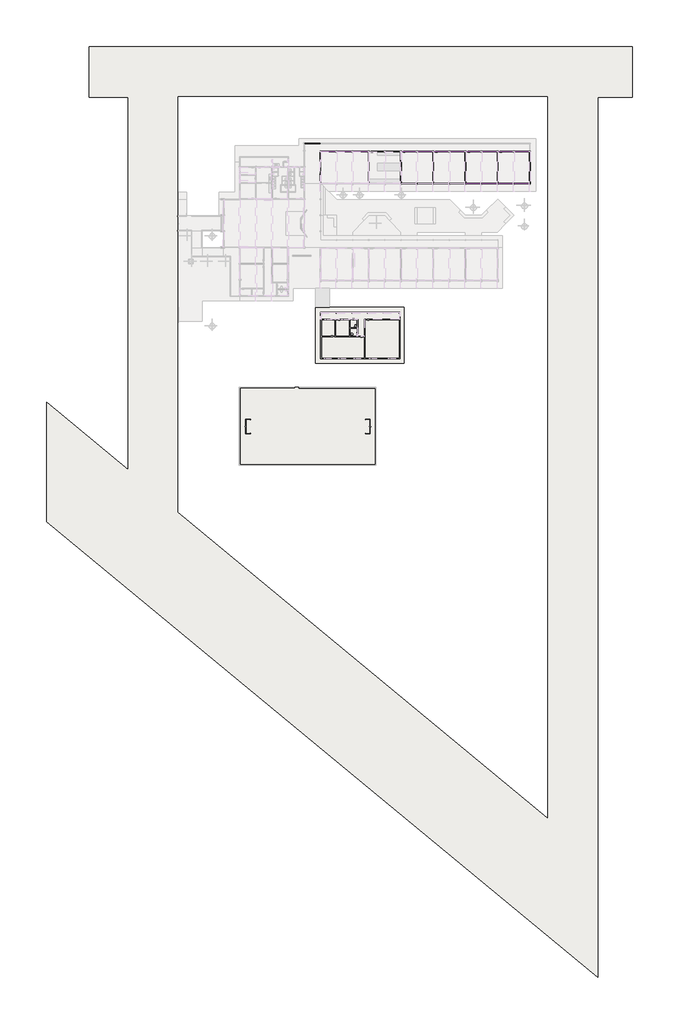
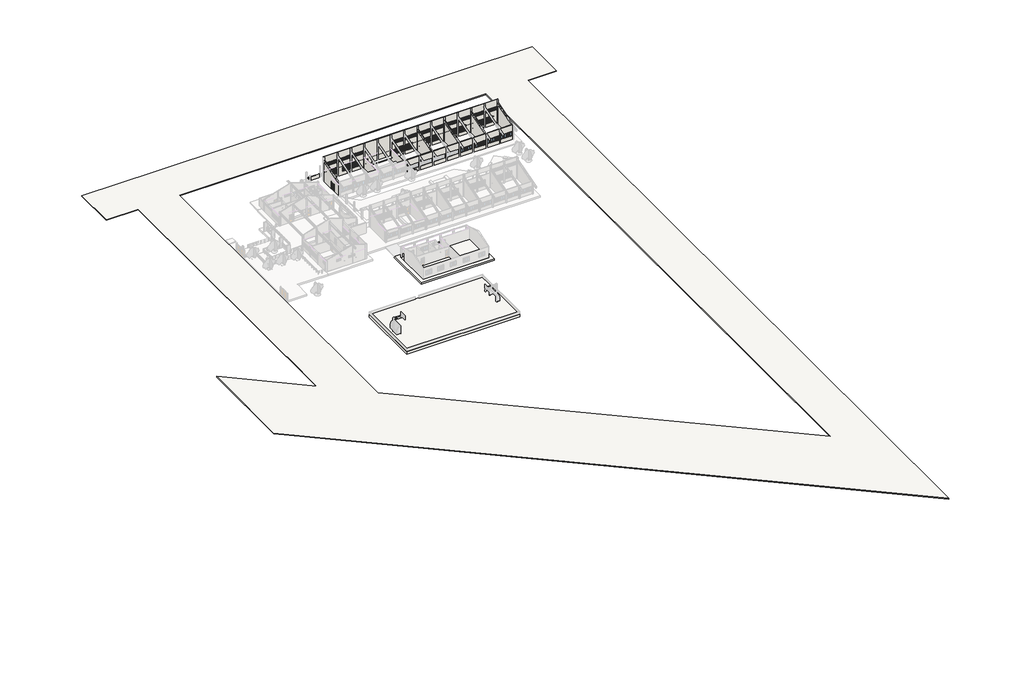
# One storey, part 4 of 12: 27 windows, 11 walls, 6 doors, 6 slabs.
"""IFC4 building model written with IfcOpenShell, lengths in millimetres."""

from ifc_helpers import new_model, si_unit, frame, origin, origin_with_axes, place, context, project, spatial, polyline, outline, extrude, faceted_brep, transform, mapped, element, save
from components import door_2b58ae42, double_action_double_door_8597_150x210cm_52e0ad49, window_f572775f, window_a88563cc, window_1a4b773a, window_60306791, window_6c828501, window_02d14e1e, window_300_x_110_bd0b738a

model = new_model("IFC4")

# Units and contexts
model_context = context("Model", 3, world=origin())
ifc_project = project(units=[si_unit("LENGTHUNIT", "METRE", prefix="MILLI")], contexts=[model_context])

# Site, building, storey
site = spatial("IfcSite", under=ifc_project)
building = spatial("IfcBuilding", under=site)
storey = spatial("IfcBuildingStorey", under=building, Name="Nível 1", Elevation=0.0)

# Doors
placement = place(None, origin())
door_shape = door_2b58ae42(model_context)
element("IfcDoor", 1, ObjectType="Porta sala de aula e laboratorio : Porta sala de aula e laboratorio", at=placement, inside=storey, context=model_context, shape_type="MappedRepresentation", body=[
    mapped(door_shape, transform((20876.5285525, 36701.0629917, 300.0), x_axis=(1.0, 0.0, 0.0), y_axis=(0.0, 1.0, 0.0), z_axis=(0.0, 0.0, 1.0))),
])
element("IfcDoor", 2, ObjectType="Porta sala de aula e laboratorio : Porta sala de aula e laboratorio", at=placement, inside=storey, context=model_context, shape_type="MappedRepresentation", body=[
    mapped(door_shape, transform((27876.5289673, 36701.0629917, 300.0), x_axis=(1.0, 0.0, 0.0), y_axis=(0.0, 1.0, 0.0), z_axis=(0.0, 0.0, 1.0))),
])
element("IfcDoor", 3, ObjectType="Porta sala de aula e laboratorio : Porta sala de aula e laboratorio", at=placement, inside=storey, context=model_context, shape_type="MappedRepresentation", body=[
    mapped(door_shape, transform((34885.0570335, 36701.0629917, 300.0), x_axis=(1.0, 0.0, 0.0), y_axis=(0.0, 1.0, 0.0), z_axis=(0.0, 0.0, 1.0))),
])
element("IfcDoor", 4, ObjectType="Porta sala de aula e laboratorio : Porta sala de aula e laboratorio", at=placement, inside=storey, context=model_context, shape_type="MappedRepresentation", body=[
    mapped(door_shape, transform((41885.0570335, 36701.0629917, 300.0), x_axis=(1.0, 0.0, 0.0), y_axis=(0.0, 1.0, 0.0), z_axis=(0.0, 0.0, 1.0))),
])
element("IfcDoor", 5, ObjectType="Porta sala de aula e laboratorio : Porta sala de aula e laboratorio", at=placement, inside=storey, context=model_context, shape_type="MappedRepresentation", body=[
    mapped(door_shape, transform((13861.5285525, 36701.0629917, 300.0), x_axis=(1.0, 0.0, 0.0), y_axis=(0.0, 1.0, 0.0), z_axis=(0.0, 0.0, 1.0))),
])
double_action_double_door_8597_150x210cm_shape = double_action_double_door_8597_150x210cm_52e0ad49(model_context)
element("IfcDoor", 6, ObjectType="Double_action_double_door_8597 : 150x210cm", at=placement, inside=storey, context=model_context, shape_type="MappedRepresentation", body=[
    mapped(double_action_double_door_8597_150x210cm_shape, transform((2801.5285525, 32481.1862478, 300.0), x_axis=(0.0, 1.0, 0.0), y_axis=(-1.0, 0.0, 0.0), z_axis=(0.0, 0.0, 1.0))),
])

# Slabs
element("IfcSlab", 7, ObjectType="Granilite", at=placement, inside=storey, context=model_context, shape_type="SweptSolid", body=[
    extrude(outline(polyline([(20076.5285525, 1831.1862478), (20076.5285525, 301.3249037), (12376.5285525, 301.3249037), (12376.5285525, -3418.8137522), (10926.5285525, -3418.8137522), (10926.5285525, 301.3249037), (2876.5285525, 301.3249037), (2876.5285525, 1831.1862478), (20076.5285525, 1831.1862478)])), origin_with_axes(), (0.0, 0.0, 1.0), 300.0),
    extrude(outline(polyline([(5976.5398414, 151.3249037), (5976.5398414, -3418.8137522), (3026.5285525, -3418.8137522), (3026.5285525, 151.3249037), (5976.5398414, 151.3249037)])), origin_with_axes(), (0.0, 0.0, 1.0), 300.0),
    extrude(outline(polyline([(9126.5285525, -3418.8137522), (6126.5398414, -3418.8137522), (6126.5398414, 151.3249037), (9126.5285525, 151.3249037), (9126.5285525, -3418.8137522)])), origin_with_axes(), (0.0, 0.0, 1.0), 300.0),
    extrude(outline(polyline([(12376.5285525, -3568.8137522), (12376.5285525, -8148.8137522), (3026.5285525, -8148.8137522), (3026.5285525, -3568.8137522), (12376.5285525, -3568.8137522)])), origin_with_axes(), (0.0, 0.0, 1.0), 300.0),
    extrude(outline(polyline([(19926.5285525, -8148.8137522), (12526.5285525, -8148.8137522), (12526.5285525, 151.3249037), (19926.5285525, 151.3249037), (19926.5285525, -8148.8137522)])), origin_with_axes(), (0.0, 0.0, 1.0), 300.0),
    extrude(outline(polyline([(10776.5285525, -1558.7444242), (9276.5285525, -1558.7444242), (9276.5285525, 151.3249037), (10776.5285525, 151.3249037), (10776.5285525, -1558.7444242)])), origin_with_axes(), (0.0, 0.0, 1.0), 300.0),
    extrude(outline(polyline([(10776.5285525, -1708.7444242), (10776.5285525, -3418.8137522), (9276.5285525, -3418.8137522), (9276.5285525, -1708.7444242), (10776.5285525, -1708.7444242)])), origin_with_axes(), (0.0, 0.0, 1.0), 300.0),
])
element("IfcSlab", 8, ObjectType="Piso Cimentado", at=placement, inside=storey, context=model_context, shape_type="SweptSolid", body=[
    extrude(outline(polyline([(14859.9357619, -14448.8202362), (14859.9357619, -31448.8202362), (-14840.0642381, -31448.8202362), (-14840.0642381, -14448.8202362), (14859.9357619, -14448.8202362)])), frame((0.0, 0.0, 495.0), z_axis=(0.0, 0.0, 1.0), x_axis=(1.0, 0.0, 0.0)), (0.0, 0.0, 1.0), 55.0),
])
element("IfcSlab", 9, ObjectType="contrapiso quadra", at=placement, inside=storey, context=model_context, shape_type="SweptSolid", body=[
    extrude(outline(polyline([(14859.9357619, -14449.8401347), (14859.9357619, -31449.8401347), (-14840.0642381, -31449.8401347), (-14840.0642381, -14449.8401347), (14859.9357619, -14449.8401347)])), frame((0.0, 0.0, -205.0), z_axis=(0.0, 0.0, 1.0), x_axis=(1.0, 0.0, 0.0)), (0.0, 0.0, 1.0), 700.0),
])
element("IfcSlab", 10, ObjectType="Granilite", at=placement, inside=storey, context=model_context, shape_type="SweptSolid", body=[
    extrude(outline(polyline([(11401.5285525, -3568.8137522), (11401.5285525, -3418.8137522), (12261.5285525, -3418.8137522), (12261.5285525, -3568.8137522), (11401.5285525, -3568.8137522)])), origin_with_axes(), (0.0, 0.0, 1.0), 300.0),
])
element("IfcSlab", 11, ObjectType="40cm - Piso de Concreto", at=placement, inside=storey, context=model_context, shape_type="SweptSolid", body=[
    extrude(outline(polyline([(1726.5285525, 2831.1862478), (20926.5285525, 2831.1862478), (20926.5285525, -9298.8137522), (1726.5285525, -9298.8137522), (1726.5285525, 2831.1862478)]), holes=[polyline([(20076.5285525, 1831.1862478), (2876.5285525, 1831.1862478), (2876.5285525, -8298.8137522), (20076.5285525, -8298.8137522), (20076.5285525, 1831.1862478)])]), frame((0.0, 0.0, -100.0), z_axis=(0.0, 0.0, 1.0), x_axis=(1.0, 0.0, 0.0)), (0.0, 0.0, 1.0), 400.0),
])
element("IfcSlab", 12, ObjectType="Rua", at=placement, inside=storey, context=model_context, shape_type="SweptSolid", body=[
    extrude(outline(polyline([(70550.3354783, 59450.3023843), (70550.3354783, 48450.3023843), (63048.695362, 48450.3023843), (63048.695362, -142579.1813628), (-56683.0936951, -43665.7571281), (-56683.0936951, -17723.6483809), (-38951.304638, -32372.3226157), (-38951.304638, 48450.3023843), (-47416.0972961, 48450.3023843), (-47416.0972961, 59450.3023843), (-27951.304638, 59450.3023843), (70550.3354783, 59450.3023843)]), holes=[polyline([(52048.695362, 48506.1797638), (-28148.5268603, 48506.1797638), (-28148.5268603, -41620.3446813), (52048.695362, -107873.2748896), (52048.695362, 48506.1797638)])]), frame((0.0, 0.0, -200.0), z_axis=(0.0, 0.0, 1.0), x_axis=(1.0, 0.0, 0.0)), (0.0, 0.0, 1.0), 200.0),
])

# Walls
element("IfcWall", 13, ObjectType="15cm - Parede Genérica", at=placement, inside=storey, context=model_context, shape_type="Brep", body=[
    faceted_brep([(20301.5285525, 36626.0629917, 7000.0), (2726.5285525, 36626.0629917, 7000.0), (2726.5285525, 36626.0629917, 3250.0), (2726.5285525, 36626.0629917, 306.2937063), (2726.5285525, 36626.0629917, 300.0), (13226.5285525, 36626.0629917, 300.0), (13376.5285525, 36626.0629917, 300.0), (13431.5285525, 36626.0629917, 300.0), (13431.5285525, 36626.0629917, 2430.0), (14291.5285525, 36626.0629917, 2430.0), (14291.5285525, 36626.0629917, 300.0), (20226.5285525, 36626.0629917, 300.0), (20301.5285525, 36626.0629917, 300.0), (6176.5285525, 36626.0629917, 2900.0), (6176.5285525, 36626.0629917, 1300.0), (4176.5285525, 36626.0629917, 1300.0), (4176.5285525, 36626.0629917, 2900.0), (9676.5285525, 36626.0629917, 2900.0), (9676.5285525, 36626.0629917, 1300.0), (7676.5285525, 36626.0629917, 1300.0), (7676.5285525, 36626.0629917, 2900.0), (11926.5285525, 36626.0629917, 2900.0), (11926.5285525, 36626.0629917, 1300.0), (9926.5285525, 36626.0629917, 1300.0), (9926.5285525, 36626.0629917, 2900.0), (13226.5285525, 36626.0629917, 5100.0), (13226.5285525, 36626.0629917, 4300.0), (9926.5285525, 36626.0629917, 4300.0), (9926.5285525, 36626.0629917, 5100.0), (9701.5285525, 36626.0629917, 5100.0), (9701.5285525, 36626.0629917, 4300.0), (6401.5285525, 36626.0629917, 4300.0), (6401.5285525, 36626.0629917, 5100.0), (6196.5285525, 36626.0629917, 5100.0), (6196.5285525, 36626.0629917, 4300.0), (2896.5285525, 36626.0629917, 4300.0), (2896.5285525, 36626.0629917, 5100.0), (2726.5285525, 36776.0629917, 7000.0), (20301.5285525, 36776.0629917, 7000.0), (20301.5285525, 36776.0629917, 300.0), (14291.5285525, 36776.0629917, 300.0), (14291.5285525, 36776.0629917, 2430.0), (13431.5285525, 36776.0629917, 2430.0), (13431.5285525, 36776.0629917, 300.0), (2726.5285525, 36776.0629917, 300.0), (6176.5285525, 36776.0629917, 1300.0), (6176.5285525, 36776.0629917, 2900.0), (4176.5285525, 36776.0629917, 2900.0), (4176.5285525, 36776.0629917, 1300.0), (9676.5285525, 36776.0629917, 1300.0), (9676.5285525, 36776.0629917, 2900.0), (7676.5285525, 36776.0629917, 2900.0), (7676.5285525, 36776.0629917, 1300.0), (11926.5285525, 36776.0629917, 1300.0), (11926.5285525, 36776.0629917, 2900.0), (9926.5285525, 36776.0629917, 2900.0), (9926.5285525, 36776.0629917, 1300.0), (13226.5285525, 36776.0629917, 4300.0), (13226.5285525, 36776.0629917, 5100.0), (9926.5285525, 36776.0629917, 5100.0), (9926.5285525, 36776.0629917, 4300.0), (9701.5285525, 36776.0629917, 4300.0), (9701.5285525, 36776.0629917, 5100.0), (6401.5285525, 36776.0629917, 5100.0), (6401.5285525, 36776.0629917, 4300.0), (6196.5285525, 36776.0629917, 4300.0), (6196.5285525, 36776.0629917, 5100.0), (2896.5285525, 36776.0629917, 5100.0), (2896.5285525, 36776.0629917, 4300.0)], [[[0, 1, 2, 3, 4, 5, 6, 7, 8, 9, 10, 11, 12], [13, 14, 15, 16], [17, 18, 19, 20], [21, 22, 23, 24], [25, 26, 27, 28], [29, 30, 31, 32], [33, 34, 35, 36]], [[37, 38, 39, 40, 41, 42, 43, 44], [45, 46, 47, 48], [49, 50, 51, 52], [53, 54, 55, 56], [57, 58, 59, 60], [61, 62, 63, 64], [65, 66, 67, 68]], [[39, 12, 11, 10, 40]], [[7, 6, 5, 4, 44, 43]], [[1, 0, 38, 37]], [[46, 45, 14, 13]], [[47, 46, 13, 16]], [[48, 47, 16, 15]], [[45, 48, 15, 14]], [[50, 49, 18, 17]], [[51, 50, 17, 20]], [[52, 51, 20, 19]], [[49, 52, 19, 18]], [[54, 53, 22, 21]], [[55, 54, 21, 24]], [[56, 55, 24, 23]], [[53, 56, 23, 22]], [[9, 41, 40, 10]], [[41, 9, 8, 42]], [[42, 8, 7, 43]], [[4, 3, 2, 1, 37, 44]], [[12, 39, 38, 0]], [[57, 26, 25, 58]], [[58, 25, 28, 59]], [[59, 28, 27, 60]], [[26, 57, 60, 27]], [[61, 30, 29, 62]], [[62, 29, 32, 63]], [[63, 32, 31, 64]], [[30, 61, 64, 31]], [[65, 34, 33, 66]], [[66, 33, 36, 67]], [[67, 36, 35, 68]], [[34, 65, 68, 35]]]),
])
element("IfcWall", 14, ObjectType="15cm - Parede Genérica", at=placement, inside=storey, context=model_context, shape_type="Brep", body=[
    faceted_brep([(48226.5285525, 36776.0629917, 106.1949031), (48226.5285525, 29631.1862478, 106.1949031), (48226.5285525, 29631.1862478, 200.0), (48226.5285525, 29631.1862478, 4190.7451204), (48226.5285525, 29781.1862478, 4235.7451204), (48226.5285525, 36560.5418609, 6269.5518043), (48226.5285525, 36560.5418609, 5723.9556271), (48226.5285525, 36776.0629917, 5723.9556271), (48226.5285525, 36776.0629917, 5100.0), (48226.5285525, 36776.0629917, 4300.0), (48226.5285525, 36776.0629917, 300.0), (48376.5285525, 29631.1862478, 106.1949031), (48376.5285525, 36776.0629917, 106.1949031), (48376.5285525, 36776.0629917, 200.0), (48376.5285525, 36776.0629917, 5723.9556271), (48376.5285525, 36560.5418609, 5723.9556271), (48376.5285525, 36560.5418609, 6269.5518043), (48376.5285525, 29631.1862478, 4190.7451204), (48376.5285525, 29631.1862478, 200.0)], [[[0, 1, 2, 3, 4, 5, 6, 7, 8, 9, 10]], [[11, 12, 13, 14, 15, 16, 17, 18]], [[1, 0, 12, 11]], [[1, 11, 18, 17, 3, 2]], [[0, 10, 9, 8, 7, 14, 13, 12]], [[14, 7, 6, 15]], [[15, 6, 5, 16]], [[5, 4, 3, 17, 16]]]),
])
element("IfcWall", 15, ObjectType="15cm - Parede Genérica", at=placement, inside=storey, context=model_context, shape_type="Brep", body=[
    faceted_brep([(48226.5285525, 29781.1862478, -21.7831843), (20301.5285525, 29781.1862478, -21.7831843), (20301.5285525, 29781.1862478, 117.8550021), (20301.5285525, 29781.1862478, 4235.7451204), (27226.5289673, 29781.1862478, 4235.7451204), (27376.5289673, 29781.1862478, 4235.7451204), (34226.5294556, 29781.1862478, 4235.7451204), (34376.5294556, 29781.1862478, 4235.7451204), (41226.5302368, 29781.1862478, 4235.7451204), (41376.5302368, 29781.1862478, 4235.7451204), (48226.5285525, 29781.1862478, 4235.7451204), (48051.5233349, 29781.1862478, 1265.0), (48051.5233349, 29781.1862478, 2435.0), (45051.5233349, 29781.1862478, 2435.0), (45051.5233349, 29781.1862478, 1265.0), (44551.5233349, 29781.1862478, 1265.0), (44551.5233349, 29781.1862478, 2435.0), (41551.5233349, 29781.1862478, 2435.0), (41551.5233349, 29781.1862478, 1265.0), (37551.5233349, 29781.1862478, 1265.0), (37551.5233349, 29781.1862478, 2435.0), (34551.5233349, 29781.1862478, 2435.0), (34551.5233349, 29781.1862478, 1265.0), (34051.5233349, 29781.1862478, 1265.0), (34051.5233349, 29781.1862478, 2435.0), (31051.5233349, 29781.1862478, 2435.0), (31051.5233349, 29781.1862478, 1265.0), (30551.5233349, 29781.1862478, 1265.0), (30551.5233349, 29781.1862478, 2435.0), (27551.5233349, 29781.1862478, 2435.0), (27551.5233349, 29781.1862478, 1265.0), (27051.5233349, 29781.1862478, 1265.0), (27051.5233349, 29781.1862478, 2435.0), (24051.5233349, 29781.1862478, 2435.0), (24051.5233349, 29781.1862478, 1265.0), (23551.5233349, 29781.1862478, 1265.0), (23551.5233349, 29781.1862478, 2435.0), (20551.5233349, 29781.1862478, 2435.0), (20551.5233349, 29781.1862478, 1265.0), (38026.5233349, 29781.1862478, 1265.0), (41051.5233349, 29781.1862478, 1265.0), (41051.5233349, 29781.1862478, 2435.0), (38026.5233349, 29781.1862478, 2435.0), (20301.5285525, 29631.1862478, -21.7831843), (48226.5285525, 29631.1862478, -21.7831843), (48226.5285525, 29631.1862478, 106.1949031), (48226.5285525, 29631.1862478, 4190.7451204), (20301.5285525, 29631.1862478, 4190.7451204), (20301.5285525, 29631.1862478, 117.8550021), (48051.5233349, 29631.1862478, 1265.0), (45051.5233349, 29631.1862478, 1265.0), (45051.5233349, 29631.1862478, 2435.0), (48051.5233349, 29631.1862478, 2435.0), (44551.5233349, 29631.1862478, 1265.0), (41551.5233349, 29631.1862478, 1265.0), (41551.5233349, 29631.1862478, 2435.0), (44551.5233349, 29631.1862478, 2435.0), (37551.5233349, 29631.1862478, 1265.0), (34551.5233349, 29631.1862478, 1265.0), (34551.5233349, 29631.1862478, 2435.0), (37551.5233349, 29631.1862478, 2435.0), (34051.5233349, 29631.1862478, 1265.0), (31051.5233349, 29631.1862478, 1265.0), (31051.5233349, 29631.1862478, 2435.0), (34051.5233349, 29631.1862478, 2435.0), (30551.5233349, 29631.1862478, 1265.0), (27551.5233349, 29631.1862478, 1265.0), (27551.5233349, 29631.1862478, 2435.0), (30551.5233349, 29631.1862478, 2435.0), (27051.5233349, 29631.1862478, 1265.0), (24051.5233349, 29631.1862478, 1265.0), (24051.5233349, 29631.1862478, 2435.0), (27051.5233349, 29631.1862478, 2435.0), (23551.5233349, 29631.1862478, 1265.0), (20551.5233349, 29631.1862478, 1265.0), (20551.5233349, 29631.1862478, 2435.0), (23551.5233349, 29631.1862478, 2435.0), (38026.5233349, 29631.1862478, 2435.0), (41051.5233349, 29631.1862478, 2435.0), (41051.5233349, 29631.1862478, 1265.0), (38026.5233349, 29631.1862478, 1265.0)], [[[0, 1, 2, 3, 4, 5, 6, 7, 8, 9, 10], [11, 12, 13, 14], [15, 16, 17, 18], [19, 20, 21, 22], [23, 24, 25, 26], [27, 28, 29, 30], [31, 32, 33, 34], [35, 36, 37, 38], [39, 40, 41, 42]], [[43, 44, 45, 46, 47, 48], [49, 50, 51, 52], [53, 54, 55, 56], [57, 58, 59, 60], [61, 62, 63, 64], [65, 66, 67, 68], [69, 70, 71, 72], [73, 74, 75, 76], [77, 78, 79, 80]], [[1, 0, 44, 43]], [[0, 10, 46, 45, 44]], [[12, 11, 49, 52]], [[13, 12, 52, 51]], [[14, 13, 51, 50]], [[11, 14, 50, 49]], [[16, 15, 53, 56]], [[17, 16, 56, 55]], [[18, 17, 55, 54]], [[15, 18, 54, 53]], [[41, 40, 79, 78]], [[41, 78, 77, 42]], [[79, 40, 39, 80]], [[20, 19, 57, 60]], [[21, 20, 60, 59]], [[22, 21, 59, 58]], [[19, 22, 58, 57]], [[24, 23, 61, 64]], [[25, 24, 64, 63]], [[26, 25, 63, 62]], [[23, 26, 62, 61]], [[28, 27, 65, 68]], [[29, 28, 68, 67]], [[30, 29, 67, 66]], [[27, 30, 66, 65]], [[32, 31, 69, 72]], [[33, 32, 72, 71]], [[34, 33, 71, 70]], [[31, 34, 70, 69]], [[36, 35, 73, 76]], [[37, 36, 76, 75]], [[38, 37, 75, 74]], [[35, 38, 74, 73]], [[42, 77, 80, 39]], [[10, 9, 8, 7, 6, 5, 4, 3, 47, 46]], [[1, 43, 48, 47, 3, 2]]]),
])
element("IfcWall", 16, ObjectType="15cm - Parede Genérica", at=placement, inside=storey, context=model_context, shape_type="Brep", body=[
    faceted_brep([(20376.5285525, 29781.1862478, 300.0), (20376.5285525, 36626.0629917, 300.0), (20376.5285525, 36626.0629917, 3250.0), (20376.5285525, 29781.1862478, 3250.0), (20226.5285525, 29781.1862478, 300.0), (20226.5285525, 29781.1862478, 3250.0), (20226.5285525, 36626.0629917, 3250.0), (20226.5285525, 36626.0629917, 300.0), (20301.5285525, 36626.0629917, 300.0)], [[[0, 1, 2, 3]], [[4, 5, 6, 7]], [[1, 0, 4, 7, 8]], [[3, 2, 6, 5]], [[2, 1, 8, 7, 6]], [[0, 3, 5, 4]]]),
])
element("IfcWall", 17, ObjectType="15cm - Parede Genérica", at=placement, inside=storey, context=model_context, shape_type="Brep", body=[
    faceted_brep([(48226.5285525, 36626.0629917, 7000.0), (20301.5285525, 36626.0629917, 7000.0), (20301.5285525, 36626.0629917, 300.0), (20376.5285525, 36626.0629917, 300.0), (20446.5285525, 36626.0629917, 300.0), (20446.5285525, 36626.0629917, 2430.0), (21306.5285525, 36626.0629917, 2430.0), (21306.5285525, 36626.0629917, 300.0), (27446.5289673, 36626.0629917, 300.0), (27446.5289673, 36626.0629917, 2430.0), (28306.5289673, 36626.0629917, 2430.0), (28306.5289673, 36626.0629917, 300.0), (34455.0570335, 36626.0629917, 300.0), (34455.0570335, 36626.0629917, 2430.0), (35315.0570335, 36626.0629917, 2430.0), (35315.0570335, 36626.0629917, 300.0), (41455.0570335, 36626.0629917, 300.0), (41455.0570335, 36626.0629917, 2430.0), (42315.0570335, 36626.0629917, 2430.0), (42315.0570335, 36626.0629917, 300.0), (48226.5285525, 36626.0629917, 300.0), (48226.5285525, 36626.0629917, 4300.0), (44926.5285525, 36626.0629917, 4300.0), (44926.5285525, 36626.0629917, 5100.0), (48226.5285525, 36626.0629917, 5100.0), (42676.5285525, 36626.0629917, 1300.0), (42676.5285525, 36626.0629917, 2900.0), (44676.5285525, 36626.0629917, 2900.0), (44676.5285525, 36626.0629917, 1300.0), (39926.5302368, 36626.0629917, 2900.0), (39926.5302368, 36626.0629917, 1300.0), (37926.5302368, 36626.0629917, 1300.0), (37926.5302368, 36626.0629917, 2900.0), (37676.5285525, 36626.0629917, 2900.0), (37676.5285525, 36626.0629917, 1300.0), (35676.5285525, 36626.0629917, 1300.0), (35676.5285525, 36626.0629917, 2900.0), (30676.5289673, 36626.0629917, 2900.0), (30676.5289673, 36626.0629917, 1300.0), (28676.5289673, 36626.0629917, 1300.0), (28676.5289673, 36626.0629917, 2900.0), (32926.5285525, 36626.0629917, 2900.0), (32926.5285525, 36626.0629917, 1300.0), (30926.5285525, 36626.0629917, 1300.0), (30926.5285525, 36626.0629917, 2900.0), (25926.5289673, 36626.0629917, 2900.0), (25926.5289673, 36626.0629917, 1300.0), (23926.5289673, 36626.0629917, 1300.0), (23926.5289673, 36626.0629917, 2900.0), (21676.5285525, 36626.0629917, 1300.0), (21676.5285525, 36626.0629917, 2900.0), (23676.5285525, 36626.0629917, 2900.0), (23676.5285525, 36626.0629917, 1300.0), (44926.5285525, 36626.0629917, 1300.0), (44926.5285525, 36626.0629917, 2900.0), (46926.5285525, 36626.0629917, 2900.0), (46926.5285525, 36626.0629917, 1300.0), (44706.5285525, 36626.0629917, 5100.0), (44706.5285525, 36626.0629917, 4300.0), (41406.5285525, 36626.0629917, 4300.0), (41406.5285525, 36626.0629917, 5100.0), (37706.5302368, 36626.0629917, 4300.0), (34406.5302368, 36626.0629917, 4300.0), (34406.5302368, 36626.0629917, 5100.0), (37706.5302368, 36626.0629917, 5100.0), (37926.5302368, 36626.0629917, 4300.0), (37926.5302368, 36626.0629917, 5100.0), (41226.5302368, 36626.0629917, 5100.0), (41226.5302368, 36626.0629917, 4300.0), (30706.5294556, 36626.0629917, 4300.0), (27406.5294556, 36626.0629917, 4300.0), (27406.5294556, 36626.0629917, 5100.0), (30706.5294556, 36626.0629917, 5100.0), (30926.5294556, 36626.0629917, 4300.0), (30926.5294556, 36626.0629917, 5100.0), (34226.5294556, 36626.0629917, 5100.0), (34226.5294556, 36626.0629917, 4300.0), (23706.5289673, 36626.0629917, 4300.0), (20406.5289673, 36626.0629917, 4300.0), (20406.5289673, 36626.0629917, 5100.0), (23706.5289673, 36626.0629917, 5100.0), (23926.5289673, 36626.0629917, 4300.0), (23926.5289673, 36626.0629917, 5100.0), (27226.5289673, 36626.0629917, 5100.0), (27226.5289673, 36626.0629917, 4300.0), (20301.5285525, 36776.0629917, 7000.0), (48226.5285525, 36776.0629917, 7000.0), (48226.5285525, 36776.0629917, 5723.9556271), (48226.5285525, 36776.0629917, 5100.0), (44926.5285525, 36776.0629917, 5100.0), (44926.5285525, 36776.0629917, 4300.0), (48226.5285525, 36776.0629917, 4300.0), (48226.5285525, 36776.0629917, 300.0), (42315.0570335, 36776.0629917, 300.0), (42315.0570335, 36776.0629917, 2430.0), (41455.0570335, 36776.0629917, 2430.0), (41455.0570335, 36776.0629917, 300.0), (35315.0570335, 36776.0629917, 300.0), (35315.0570335, 36776.0629917, 2430.0), (34455.0570335, 36776.0629917, 2430.0), (34455.0570335, 36776.0629917, 300.0), (28306.5289673, 36776.0629917, 300.0), (28306.5289673, 36776.0629917, 2430.0), (27446.5289673, 36776.0629917, 2430.0), (27446.5289673, 36776.0629917, 300.0), (21306.5285525, 36776.0629917, 300.0), (21306.5285525, 36776.0629917, 2430.0), (20446.5285525, 36776.0629917, 2430.0), (20446.5285525, 36776.0629917, 300.0), (20301.5285525, 36776.0629917, 300.0), (42676.5285525, 36776.0629917, 2900.0), (42676.5285525, 36776.0629917, 1300.0), (44676.5285525, 36776.0629917, 1300.0), (44676.5285525, 36776.0629917, 2900.0), (39926.5302368, 36776.0629917, 1300.0), (39926.5302368, 36776.0629917, 2900.0), (37926.5302368, 36776.0629917, 2900.0), (37926.5302368, 36776.0629917, 1300.0), (37676.5285525, 36776.0629917, 1300.0), (37676.5285525, 36776.0629917, 2900.0), (35676.5285525, 36776.0629917, 2900.0), (35676.5285525, 36776.0629917, 1300.0), (30676.5289673, 36776.0629917, 1300.0), (30676.5289673, 36776.0629917, 2900.0), (28676.5289673, 36776.0629917, 2900.0), (28676.5289673, 36776.0629917, 1300.0), (32926.5285525, 36776.0629917, 1300.0), (32926.5285525, 36776.0629917, 2900.0), (30926.5285525, 36776.0629917, 2900.0), (30926.5285525, 36776.0629917, 1300.0), (25926.5289673, 36776.0629917, 1300.0), (25926.5289673, 36776.0629917, 2900.0), (23926.5289673, 36776.0629917, 2900.0), (23926.5289673, 36776.0629917, 1300.0), (21676.5285525, 36776.0629917, 2900.0), (21676.5285525, 36776.0629917, 1300.0), (23676.5285525, 36776.0629917, 1300.0), (23676.5285525, 36776.0629917, 2900.0), (44926.5285525, 36776.0629917, 2900.0), (44926.5285525, 36776.0629917, 1300.0), (46926.5285525, 36776.0629917, 1300.0), (46926.5285525, 36776.0629917, 2900.0), (44706.5285525, 36776.0629917, 4300.0), (44706.5285525, 36776.0629917, 5100.0), (41406.5285525, 36776.0629917, 5100.0), (41406.5285525, 36776.0629917, 4300.0), (37706.5302368, 36776.0629917, 4300.0), (37706.5302368, 36776.0629917, 5100.0), (34406.5302368, 36776.0629917, 5100.0), (34406.5302368, 36776.0629917, 4300.0), (37926.5302368, 36776.0629917, 4300.0), (41226.5302368, 36776.0629917, 4300.0), (41226.5302368, 36776.0629917, 5100.0), (37926.5302368, 36776.0629917, 5100.0), (30706.5294556, 36776.0629917, 4300.0), (30706.5294556, 36776.0629917, 5100.0), (27406.5294556, 36776.0629917, 5100.0), (27406.5294556, 36776.0629917, 4300.0), (30926.5294556, 36776.0629917, 4300.0), (34226.5294556, 36776.0629917, 4300.0), (34226.5294556, 36776.0629917, 5100.0), (30926.5294556, 36776.0629917, 5100.0), (23706.5289673, 36776.0629917, 4300.0), (23706.5289673, 36776.0629917, 5100.0), (20406.5289673, 36776.0629917, 5100.0), (20406.5289673, 36776.0629917, 4300.0), (23926.5289673, 36776.0629917, 4300.0), (27226.5289673, 36776.0629917, 4300.0), (27226.5289673, 36776.0629917, 5100.0), (23926.5289673, 36776.0629917, 5100.0)], [[[0, 1, 2, 3, 4, 5, 6, 7, 8, 9, 10, 11, 12, 13, 14, 15, 16, 17, 18, 19, 20, 21, 22, 23, 24], [25, 26, 27, 28], [29, 30, 31, 32], [33, 34, 35, 36], [37, 38, 39, 40], [41, 42, 43, 44], [45, 46, 47, 48], [49, 50, 51, 52], [53, 54, 55, 56], [57, 58, 59, 60], [61, 62, 63, 64], [65, 66, 67, 68], [69, 70, 71, 72], [73, 74, 75, 76], [77, 78, 79, 80], [81, 82, 83, 84]], [[85, 86, 87, 88, 89, 90, 91, 92, 93, 94, 95, 96, 97, 98, 99, 100, 101, 102, 103, 104, 105, 106, 107, 108, 109], [110, 111, 112, 113], [114, 115, 116, 117], [118, 119, 120, 121], [122, 123, 124, 125], [126, 127, 128, 129], [130, 131, 132, 133], [134, 135, 136, 137], [138, 139, 140, 141], [142, 143, 144, 145], [146, 147, 148, 149], [150, 151, 152, 153], [154, 155, 156, 157], [158, 159, 160, 161], [162, 163, 164, 165], [166, 167, 168, 169]], [[0, 24, 88, 87, 86]], [[21, 20, 92, 91]], [[26, 25, 111, 110]], [[27, 26, 110, 113]], [[28, 27, 113, 112]], [[25, 28, 112, 111]], [[115, 114, 30, 29]], [[116, 115, 29, 32]], [[117, 116, 32, 31]], [[114, 117, 31, 30]], [[119, 118, 34, 33]], [[120, 119, 33, 36]], [[121, 120, 36, 35]], [[118, 121, 35, 34]], [[123, 122, 38, 37]], [[124, 123, 37, 40]], [[125, 124, 40, 39]], [[122, 125, 39, 38]], [[127, 126, 42, 41]], [[128, 127, 41, 44]], [[129, 128, 44, 43]], [[126, 129, 43, 42]], [[131, 130, 46, 45]], [[132, 131, 45, 48]], [[133, 132, 48, 47]], [[130, 133, 47, 46]], [[50, 49, 135, 134]], [[51, 50, 134, 137]], [[52, 51, 137, 136]], [[49, 52, 136, 135]], [[7, 6, 106, 105]], [[6, 5, 107, 106]], [[5, 4, 108, 107]], [[11, 10, 102, 101]], [[10, 9, 103, 102]], [[9, 8, 104, 103]], [[54, 53, 139, 138]], [[55, 54, 138, 141]], [[56, 55, 141, 140]], [[53, 56, 140, 139]], [[22, 90, 89, 23]], [[24, 23, 89, 88]], [[90, 22, 21, 91]], [[142, 58, 57, 143]], [[143, 57, 60, 144]], [[144, 60, 59, 145]], [[58, 142, 145, 59]], [[147, 146, 61, 64]], [[148, 147, 64, 63]], [[149, 148, 63, 62]], [[146, 149, 62, 61]], [[66, 65, 150, 153]], [[67, 66, 153, 152]], [[68, 67, 152, 151]], [[65, 68, 151, 150]], [[155, 154, 69, 72]], [[156, 155, 72, 71]], [[157, 156, 71, 70]], [[154, 157, 70, 69]], [[74, 73, 158, 161]], [[75, 74, 161, 160]], [[76, 75, 160, 159]], [[73, 76, 159, 158]], [[163, 162, 77, 80]], [[164, 163, 80, 79]], [[165, 164, 79, 78]], [[162, 165, 78, 77]], [[82, 81, 166, 169]], [[83, 82, 169, 168]], [[84, 83, 168, 167]], [[81, 84, 167, 166]], [[1, 0, 86, 85]], [[2, 1, 85, 109]], [[92, 20, 19, 93]], [[7, 105, 104, 8]], [[11, 101, 100, 12]], [[96, 16, 15, 97]], [[2, 109, 108, 4, 3]], [[18, 94, 93, 19]], [[94, 18, 17, 95]], [[95, 17, 16, 96]], [[14, 98, 97, 15]], [[98, 14, 13, 99]], [[99, 13, 12, 100]]]),
])
element("IfcWall", 18, ObjectType="15cm - Parede Genérica", at=placement, inside=storey, context=model_context, shape_type="Brep", body=[
    faceted_brep([(41226.5302368, 36626.0629917, 100.0), (41226.5302368, 29781.1862478, 100.0), (41226.5302368, 29781.1862478, 4235.7451204), (41226.5302368, 36560.5418609, 6269.5518043), (41226.5302368, 36560.5418609, 5723.9556271), (41226.5302368, 36626.0629917, 5723.9556271), (41226.5302368, 36626.0629917, 5100.0), (41226.5302368, 36626.0629917, 4300.0), (41376.5302368, 36626.0629917, 100.0), (41376.5302368, 36626.0629917, 5723.9556271), (41376.5302368, 36560.5418609, 5723.9556271), (41376.5302368, 36560.5418609, 6269.5518043), (41376.5302368, 29781.1862478, 4235.7451204), (41376.5302368, 29781.1862478, 100.0)], [[[0, 1, 2, 3, 4, 5, 6, 7]], [[8, 9, 10, 11, 12, 13]], [[1, 0, 8, 13]], [[2, 1, 13, 12]], [[0, 7, 6, 5, 9, 8]], [[5, 4, 10, 9]], [[10, 4, 3, 11]], [[3, 2, 12, 11]]]),
])
element("IfcWall", 19, ObjectType="15cm - Parede Genérica", at=placement, inside=storey, context=model_context, shape_type="Brep", body=[
    faceted_brep([(34226.5294556, 36626.0629917, 100.0), (34226.5294556, 29781.1862478, 100.0), (34226.5294556, 29781.1862478, 4235.7451204), (34226.5294556, 36560.5418609, 6269.5518043), (34226.5294556, 36560.5418609, 5723.9556271), (34226.5294556, 36626.0629917, 5723.9556271), (34226.5294556, 36626.0629917, 5100.0), (34226.5294556, 36626.0629917, 4300.0), (34376.5294556, 36626.0629917, 100.0), (34376.5294556, 36626.0629917, 5723.9556271), (34376.5294556, 36560.5418609, 5723.9556271), (34376.5294556, 36560.5418609, 6269.5518043), (34376.5294556, 29781.1862478, 4235.7451204), (34376.5294556, 29781.1862478, 100.0)], [[[0, 1, 2, 3, 4, 5, 6, 7]], [[8, 9, 10, 11, 12, 13]], [[1, 0, 8, 13]], [[2, 1, 13, 12]], [[0, 7, 6, 5, 9, 8]], [[5, 4, 10, 9]], [[10, 4, 3, 11]], [[3, 2, 12, 11]]]),
])
element("IfcWall", 20, ObjectType="15cm - Parede Genérica", at=placement, inside=storey, context=model_context, shape_type="Brep", body=[
    faceted_brep([(27226.5289673, 36626.0629917, 100.0), (27226.5289673, 29781.1862478, 100.0), (27226.5289673, 29781.1862478, 4235.7451204), (27226.5289673, 36560.5418609, 6269.5518043), (27226.5289673, 36560.5418609, 5723.9556271), (27226.5289673, 36626.0629917, 5723.9556271), (27226.5289673, 36626.0629917, 5100.0), (27226.5289673, 36626.0629917, 4300.0), (27376.5289673, 36626.0629917, 100.0), (27376.5289673, 36626.0629917, 5723.9556271), (27376.5289673, 36560.5418609, 5723.9556271), (27376.5289673, 36560.5418609, 6269.5518043), (27376.5289673, 29781.1862478, 4235.7451204), (27376.5289673, 29781.1862478, 100.0)], [[[0, 1, 2, 3, 4, 5, 6, 7]], [[8, 9, 10, 11, 12, 13]], [[1, 0, 8, 13]], [[2, 1, 13, 12]], [[0, 7, 6, 5, 9, 8]], [[5, 4, 10, 9]], [[10, 4, 3, 11]], [[3, 2, 12, 11]]]),
])
element("IfcWall", 21, ObjectType="15cm - Parede Genérica", at=placement, inside=storey, context=model_context, shape_type="SweptSolid", body=[
    extrude(outline(polyline([(13376.5285525, 36626.0629917), (13376.5285525, 29781.1862478), (13226.5285525, 29781.1862478), (13226.5285525, 36626.0629917), (13376.5285525, 36626.0629917)])), frame((0.0, 0.0, 300.0), z_axis=(0.0, 0.0, 1.0), x_axis=(1.0, 0.0, 0.0)), (0.0, 0.0, 1.0), 2950.0),
])
element("IfcWall", 22, ObjectType="15cm - Parede Genérica", at=placement, inside=storey, context=model_context, shape_type="SweptSolid", body=[
    extrude(outline(polyline([(36626.0629917, 3250.0), (36626.0629917, 306.2937063), (33226.1862478, 306.2937063), (33226.1862478, 2350.0), (31736.1862478, 2350.0), (31736.1862478, 306.2937063), (29781.1862478, 306.2937063), (29781.1862478, 4235.7451204), (36560.5418609, 6269.5518043), (36560.5418609, 3250.0), (36626.0629917, 3250.0)])), frame((2726.5285525, 0.0, 0.0), z_axis=(1.0, 0.0, 0.0), x_axis=(0.0, 1.0, 0.0)), (0.0, 0.0, 1.0), 150.0),
])
element("IfcWall", 23, ObjectType="15cm - Parede Genérica", at=placement, inside=storey, context=model_context, shape_type="SweptSolid", body=[
    extrude(outline(polyline([(2726.5285525, 38311.1862478), (-623.4714475, 38311.1862478), (-623.4714475, 38461.1862478), (2726.5285525, 38461.1862478), (2726.5285525, 38311.1862478)])), frame((0.0, 0.0, 100.0), z_axis=(0.0, 0.0, 1.0), x_axis=(1.0, 0.0, 0.0)), (0.0, 0.0, 1.0), 1200.0),
])

# Windows
window_shape = window_f572775f(model_context)
window_2_shape = window_a88563cc(model_context)
window_3_shape = window_1a4b773a(model_context)
element("IfcWindow", 24, ObjectType="Concrete_Cobog_Hollow_block_14694 : Cobogó 2,00 x 1,60 m", at=placement, inside=storey, context=model_context, shape_type="MappedRepresentation", body=[
    mapped(window_shape, transform((43676.5285525, 36701.0629917, 500.0), x_axis=(1.0, 0.0, 0.0), y_axis=(0.0, 1.0, 0.0), z_axis=(0.0, 0.0, 1.0))),
    mapped(window_2_shape, transform((43676.5285525, 36701.0629917, 500.0), x_axis=(1.0, 0.0, 0.0), y_axis=(0.0, 1.0, 0.0), z_axis=(0.0, 0.0, 1.0))),
    mapped(window_3_shape, transform((43676.5285525, 36701.0629917, 500.0), x_axis=(1.0, 0.0, 0.0), y_axis=(0.0, 1.0, 0.0), z_axis=(0.0, 0.0, 1.0))),
])
element("IfcWindow", 25, ObjectType="Concrete_Cobog_Hollow_block_14694 : Cobogó 2,00 x 1,60 m", at=placement, inside=storey, context=model_context, shape_type="MappedRepresentation", body=[
    mapped(window_shape, transform((38926.5302368, 36701.0629917, 500.0), x_axis=(-1.0, 0.0, 0.0), y_axis=(0.0, -1.0, 0.0), z_axis=(0.0, 0.0, 1.0))),
    mapped(window_2_shape, transform((38926.5302368, 36701.0629917, 500.0), x_axis=(-1.0, 0.0, 0.0), y_axis=(0.0, -1.0, 0.0), z_axis=(0.0, 0.0, 1.0))),
    mapped(window_3_shape, transform((38926.5302368, 36701.0629917, 500.0), x_axis=(-1.0, 0.0, 0.0), y_axis=(0.0, -1.0, 0.0), z_axis=(0.0, 0.0, 1.0))),
])
element("IfcWindow", 26, ObjectType="Concrete_Cobog_Hollow_block_14694 : Cobogó 2,00 x 1,60 m", at=placement, inside=storey, context=model_context, shape_type="MappedRepresentation", body=[
    mapped(window_shape, transform((36676.5285525, 36701.0629917, 500.0), x_axis=(-1.0, 0.0, 0.0), y_axis=(0.0, -1.0, 0.0), z_axis=(0.0, 0.0, 1.0))),
    mapped(window_2_shape, transform((36676.5285525, 36701.0629917, 500.0), x_axis=(-1.0, 0.0, 0.0), y_axis=(0.0, -1.0, 0.0), z_axis=(0.0, 0.0, 1.0))),
    mapped(window_3_shape, transform((36676.5285525, 36701.0629917, 500.0), x_axis=(-1.0, 0.0, 0.0), y_axis=(0.0, -1.0, 0.0), z_axis=(0.0, 0.0, 1.0))),
])
element("IfcWindow", 27, ObjectType="Concrete_Cobog_Hollow_block_14694 : Cobogó 2,00 x 1,60 m", at=placement, inside=storey, context=model_context, shape_type="MappedRepresentation", body=[
    mapped(window_shape, transform((29676.5289673, 36701.0629917, 500.0), x_axis=(-1.0, 0.0, 0.0), y_axis=(0.0, -1.0, 0.0), z_axis=(0.0, 0.0, 1.0))),
    mapped(window_2_shape, transform((29676.5289673, 36701.0629917, 500.0), x_axis=(-1.0, 0.0, 0.0), y_axis=(0.0, -1.0, 0.0), z_axis=(0.0, 0.0, 1.0))),
    mapped(window_3_shape, transform((29676.5289673, 36701.0629917, 500.0), x_axis=(-1.0, 0.0, 0.0), y_axis=(0.0, -1.0, 0.0), z_axis=(0.0, 0.0, 1.0))),
])
element("IfcWindow", 28, ObjectType="Concrete_Cobog_Hollow_block_14694 : Cobogó 2,00 x 1,60 m", at=placement, inside=storey, context=model_context, shape_type="MappedRepresentation", body=[
    mapped(window_shape, transform((31926.5285525, 36701.0629917, 500.0), x_axis=(-1.0, 0.0, 0.0), y_axis=(0.0, -1.0, 0.0), z_axis=(0.0, 0.0, 1.0))),
    mapped(window_2_shape, transform((31926.5285525, 36701.0629917, 500.0), x_axis=(-1.0, 0.0, 0.0), y_axis=(0.0, -1.0, 0.0), z_axis=(0.0, 0.0, 1.0))),
    mapped(window_3_shape, transform((31926.5285525, 36701.0629917, 500.0), x_axis=(-1.0, 0.0, 0.0), y_axis=(0.0, -1.0, 0.0), z_axis=(0.0, 0.0, 1.0))),
])
element("IfcWindow", 29, ObjectType="Concrete_Cobog_Hollow_block_14694 : Cobogó 2,00 x 1,60 m", at=placement, inside=storey, context=model_context, shape_type="MappedRepresentation", body=[
    mapped(window_shape, transform((24926.5289673, 36701.0629917, 500.0), x_axis=(-1.0, 0.0, 0.0), y_axis=(0.0, -1.0, 0.0), z_axis=(0.0, 0.0, 1.0))),
    mapped(window_2_shape, transform((24926.5289673, 36701.0629917, 500.0), x_axis=(-1.0, 0.0, 0.0), y_axis=(0.0, -1.0, 0.0), z_axis=(0.0, 0.0, 1.0))),
    mapped(window_3_shape, transform((24926.5289673, 36701.0629917, 500.0), x_axis=(-1.0, 0.0, 0.0), y_axis=(0.0, -1.0, 0.0), z_axis=(0.0, 0.0, 1.0))),
])
element("IfcWindow", 30, ObjectType="Concrete_Cobog_Hollow_block_14694 : Cobogó 2,00 x 1,60 m", at=placement, inside=storey, context=model_context, shape_type="MappedRepresentation", body=[
    mapped(window_shape, transform((22676.5285525, 36701.0629917, 500.0), x_axis=(1.0, 0.0, 0.0), y_axis=(0.0, 1.0, 0.0), z_axis=(0.0, 0.0, 1.0))),
    mapped(window_2_shape, transform((22676.5285525, 36701.0629917, 500.0), x_axis=(1.0, 0.0, 0.0), y_axis=(0.0, 1.0, 0.0), z_axis=(0.0, 0.0, 1.0))),
    mapped(window_3_shape, transform((22676.5285525, 36701.0629917, 500.0), x_axis=(1.0, 0.0, 0.0), y_axis=(0.0, 1.0, 0.0), z_axis=(0.0, 0.0, 1.0))),
])
element("IfcWindow", 31, ObjectType="Concrete_Cobog_Hollow_block_14694 : Cobogó 2,00 x 1,60 m", at=placement, inside=storey, context=model_context, shape_type="MappedRepresentation", body=[
    mapped(window_shape, transform((5176.5285525, 36701.0629917, 500.0), x_axis=(-1.0, 0.0, 0.0), y_axis=(0.0, -1.0, 0.0), z_axis=(0.0, 0.0, 1.0))),
    mapped(window_2_shape, transform((5176.5285525, 36701.0629917, 500.0), x_axis=(-1.0, 0.0, 0.0), y_axis=(0.0, -1.0, 0.0), z_axis=(0.0, 0.0, 1.0))),
    mapped(window_3_shape, transform((5176.5285525, 36701.0629917, 500.0), x_axis=(-1.0, 0.0, 0.0), y_axis=(0.0, -1.0, 0.0), z_axis=(0.0, 0.0, 1.0))),
])
element("IfcWindow", 32, ObjectType="Concrete_Cobog_Hollow_block_14694 : Cobogó 2,00 x 1,60 m", at=placement, inside=storey, context=model_context, shape_type="MappedRepresentation", body=[
    mapped(window_shape, transform((8676.5285525, 36701.0629917, 500.0), x_axis=(-1.0, 0.0, 0.0), y_axis=(0.0, -1.0, 0.0), z_axis=(0.0, 0.0, 1.0))),
    mapped(window_2_shape, transform((8676.5285525, 36701.0629917, 500.0), x_axis=(-1.0, 0.0, 0.0), y_axis=(0.0, -1.0, 0.0), z_axis=(0.0, 0.0, 1.0))),
    mapped(window_3_shape, transform((8676.5285525, 36701.0629917, 500.0), x_axis=(-1.0, 0.0, 0.0), y_axis=(0.0, -1.0, 0.0), z_axis=(0.0, 0.0, 1.0))),
])
element("IfcWindow", 33, ObjectType="Concrete_Cobog_Hollow_block_14694 : Cobogó 2,00 x 1,60 m", at=placement, inside=storey, context=model_context, shape_type="MappedRepresentation", body=[
    mapped(window_shape, transform((10926.5285525, 36701.0629917, 500.0), x_axis=(-1.0, 0.0, 0.0), y_axis=(0.0, -1.0, 0.0), z_axis=(0.0, 0.0, 1.0))),
    mapped(window_2_shape, transform((10926.5285525, 36701.0629917, 500.0), x_axis=(-1.0, 0.0, 0.0), y_axis=(0.0, -1.0, 0.0), z_axis=(0.0, 0.0, 1.0))),
    mapped(window_3_shape, transform((10926.5285525, 36701.0629917, 500.0), x_axis=(-1.0, 0.0, 0.0), y_axis=(0.0, -1.0, 0.0), z_axis=(0.0, 0.0, 1.0))),
])
element("IfcWindow", 34, ObjectType="Concrete_Cobog_Hollow_block_14694 : Cobogó 2,00 x 1,60 m", at=placement, inside=storey, context=model_context, shape_type="MappedRepresentation", body=[
    mapped(window_shape, transform((45926.5285525, 36701.0629917, 500.0), x_axis=(1.0, 0.0, 0.0), y_axis=(0.0, 1.0, 0.0), z_axis=(0.0, 0.0, 1.0))),
    mapped(window_2_shape, transform((45926.5285525, 36701.0629917, 500.0), x_axis=(1.0, 0.0, 0.0), y_axis=(0.0, 1.0, 0.0), z_axis=(0.0, 0.0, 1.0))),
    mapped(window_3_shape, transform((45926.5285525, 36701.0629917, 500.0), x_axis=(1.0, 0.0, 0.0), y_axis=(0.0, 1.0, 0.0), z_axis=(0.0, 0.0, 1.0))),
])
window_4_shape = window_60306791(model_context)
window_5_shape = window_6c828501(model_context)
window_6_shape = window_02d14e1e(model_context)
element("IfcWindow", 35, ObjectType="Concrete_Cobog_Hollow_block_14694 : Cobogó 3,25 x 0,80 m", at=placement, inside=storey, context=model_context, shape_type="MappedRepresentation", body=[
    mapped(window_4_shape, transform((46576.5285525, 36701.0629917, 3500.0), x_axis=(1.0, 0.0, 0.0), y_axis=(0.0, 1.0, 0.0), z_axis=(0.0, 0.0, 1.0))),
    mapped(window_5_shape, transform((46576.5285525, 36701.0629917, 3500.0), x_axis=(1.0, 0.0, 0.0), y_axis=(0.0, 1.0, 0.0), z_axis=(0.0, 0.0, 1.0))),
    mapped(window_6_shape, transform((46576.5285525, 36701.0629917, 3500.0), x_axis=(1.0, 0.0, 0.0), y_axis=(0.0, 1.0, 0.0), z_axis=(0.0, 0.0, 1.0))),
])
element("IfcWindow", 36, ObjectType="Concrete_Cobog_Hollow_block_14694 : Cobogó 3,25 x 0,80 m", at=placement, inside=storey, context=model_context, shape_type="MappedRepresentation", body=[
    mapped(window_4_shape, transform((43056.5285525, 36701.0629917, 3500.0), x_axis=(-1.0, 0.0, 0.0), y_axis=(0.0, -1.0, 0.0), z_axis=(0.0, 0.0, 1.0))),
    mapped(window_5_shape, transform((43056.5285525, 36701.0629917, 3500.0), x_axis=(-1.0, 0.0, 0.0), y_axis=(0.0, -1.0, 0.0), z_axis=(0.0, 0.0, 1.0))),
    mapped(window_6_shape, transform((43056.5285525, 36701.0629917, 3500.0), x_axis=(-1.0, 0.0, 0.0), y_axis=(0.0, -1.0, 0.0), z_axis=(0.0, 0.0, 1.0))),
])
element("IfcWindow", 37, ObjectType="Concrete_Cobog_Hollow_block_14694 : Cobogó 3,25 x 0,80 m", at=placement, inside=storey, context=model_context, shape_type="MappedRepresentation", body=[
    mapped(window_4_shape, transform((39576.5302368, 36701.0629917, 3500.0), x_axis=(1.0, 0.0, 0.0), y_axis=(0.0, 1.0, 0.0), z_axis=(0.0, 0.0, 1.0))),
    mapped(window_5_shape, transform((39576.5302368, 36701.0629917, 3500.0), x_axis=(1.0, 0.0, 0.0), y_axis=(0.0, 1.0, 0.0), z_axis=(0.0, 0.0, 1.0))),
    mapped(window_6_shape, transform((39576.5302368, 36701.0629917, 3500.0), x_axis=(1.0, 0.0, 0.0), y_axis=(0.0, 1.0, 0.0), z_axis=(0.0, 0.0, 1.0))),
])
element("IfcWindow", 38, ObjectType="Concrete_Cobog_Hollow_block_14694 : Cobogó 3,25 x 0,80 m", at=placement, inside=storey, context=model_context, shape_type="MappedRepresentation", body=[
    mapped(window_4_shape, transform((36056.5302368, 36701.0629917, 3500.0), x_axis=(-1.0, 0.0, 0.0), y_axis=(0.0, -1.0, 0.0), z_axis=(0.0, 0.0, 1.0))),
    mapped(window_5_shape, transform((36056.5302368, 36701.0629917, 3500.0), x_axis=(-1.0, 0.0, 0.0), y_axis=(0.0, -1.0, 0.0), z_axis=(0.0, 0.0, 1.0))),
    mapped(window_6_shape, transform((36056.5302368, 36701.0629917, 3500.0), x_axis=(-1.0, 0.0, 0.0), y_axis=(0.0, -1.0, 0.0), z_axis=(0.0, 0.0, 1.0))),
])
element("IfcWindow", 39, ObjectType="Concrete_Cobog_Hollow_block_14694 : Cobogó 3,25 x 0,80 m", at=placement, inside=storey, context=model_context, shape_type="MappedRepresentation", body=[
    mapped(window_4_shape, transform((32576.5294556, 36701.0629917, 3500.0), x_axis=(1.0, 0.0, 0.0), y_axis=(0.0, 1.0, 0.0), z_axis=(0.0, 0.0, 1.0))),
    mapped(window_5_shape, transform((32576.5294556, 36701.0629917, 3500.0), x_axis=(1.0, 0.0, 0.0), y_axis=(0.0, 1.0, 0.0), z_axis=(0.0, 0.0, 1.0))),
    mapped(window_6_shape, transform((32576.5294556, 36701.0629917, 3500.0), x_axis=(1.0, 0.0, 0.0), y_axis=(0.0, 1.0, 0.0), z_axis=(0.0, 0.0, 1.0))),
])
element("IfcWindow", 40, ObjectType="Concrete_Cobog_Hollow_block_14694 : Cobogó 3,25 x 0,80 m", at=placement, inside=storey, context=model_context, shape_type="MappedRepresentation", body=[
    mapped(window_4_shape, transform((29056.5294556, 36701.0629917, 3500.0), x_axis=(-1.0, 0.0, 0.0), y_axis=(0.0, -1.0, 0.0), z_axis=(0.0, 0.0, 1.0))),
    mapped(window_5_shape, transform((29056.5294556, 36701.0629917, 3500.0), x_axis=(-1.0, 0.0, 0.0), y_axis=(0.0, -1.0, 0.0), z_axis=(0.0, 0.0, 1.0))),
    mapped(window_6_shape, transform((29056.5294556, 36701.0629917, 3500.0), x_axis=(-1.0, 0.0, 0.0), y_axis=(0.0, -1.0, 0.0), z_axis=(0.0, 0.0, 1.0))),
])
element("IfcWindow", 41, ObjectType="Concrete_Cobog_Hollow_block_14694 : Cobogó 3,25 x 0,80 m", at=placement, inside=storey, context=model_context, shape_type="MappedRepresentation", body=[
    mapped(window_4_shape, transform((25576.5289673, 36701.0629917, 3500.0), x_axis=(1.0, 0.0, 0.0), y_axis=(0.0, 1.0, 0.0), z_axis=(0.0, 0.0, 1.0))),
    mapped(window_5_shape, transform((25576.5289673, 36701.0629917, 3500.0), x_axis=(1.0, 0.0, 0.0), y_axis=(0.0, 1.0, 0.0), z_axis=(0.0, 0.0, 1.0))),
    mapped(window_6_shape, transform((25576.5289673, 36701.0629917, 3500.0), x_axis=(1.0, 0.0, 0.0), y_axis=(0.0, 1.0, 0.0), z_axis=(0.0, 0.0, 1.0))),
])
element("IfcWindow", 42, ObjectType="Concrete_Cobog_Hollow_block_14694 : Cobogó 3,25 x 0,80 m", at=placement, inside=storey, context=model_context, shape_type="MappedRepresentation", body=[
    mapped(window_4_shape, transform((22056.5289673, 36701.0629917, 3500.0), x_axis=(-1.0, 0.0, 0.0), y_axis=(0.0, -1.0, 0.0), z_axis=(0.0, 0.0, 1.0))),
    mapped(window_5_shape, transform((22056.5289673, 36701.0629917, 3500.0), x_axis=(-1.0, 0.0, 0.0), y_axis=(0.0, -1.0, 0.0), z_axis=(0.0, 0.0, 1.0))),
    mapped(window_6_shape, transform((22056.5289673, 36701.0629917, 3500.0), x_axis=(-1.0, 0.0, 0.0), y_axis=(0.0, -1.0, 0.0), z_axis=(0.0, 0.0, 1.0))),
])
element("IfcWindow", 43, ObjectType="Concrete_Cobog_Hollow_block_14694 : Cobogó 3,25 x 0,80 m", at=placement, inside=storey, context=model_context, shape_type="MappedRepresentation", body=[
    mapped(window_4_shape, transform((11576.5285525, 36701.0629917, 3500.0), x_axis=(-1.0, 0.0, 0.0), y_axis=(0.0, -1.0, 0.0), z_axis=(0.0, 0.0, 1.0))),
    mapped(window_5_shape, transform((11576.5285525, 36701.0629917, 3500.0), x_axis=(-1.0, 0.0, 0.0), y_axis=(0.0, -1.0, 0.0), z_axis=(0.0, 0.0, 1.0))),
    mapped(window_6_shape, transform((11576.5285525, 36701.0629917, 3500.0), x_axis=(-1.0, 0.0, 0.0), y_axis=(0.0, -1.0, 0.0), z_axis=(0.0, 0.0, 1.0))),
])
element("IfcWindow", 44, ObjectType="Concrete_Cobog_Hollow_block_14694 : Cobogó 3,25 x 0,80 m", at=placement, inside=storey, context=model_context, shape_type="MappedRepresentation", body=[
    mapped(window_4_shape, transform((8051.5285525, 36701.0629917, 3500.0), x_axis=(-1.0, 0.0, 0.0), y_axis=(0.0, -1.0, 0.0), z_axis=(0.0, 0.0, 1.0))),
    mapped(window_5_shape, transform((8051.5285525, 36701.0629917, 3500.0), x_axis=(-1.0, 0.0, 0.0), y_axis=(0.0, -1.0, 0.0), z_axis=(0.0, 0.0, 1.0))),
    mapped(window_6_shape, transform((8051.5285525, 36701.0629917, 3500.0), x_axis=(-1.0, 0.0, 0.0), y_axis=(0.0, -1.0, 0.0), z_axis=(0.0, 0.0, 1.0))),
])
element("IfcWindow", 45, ObjectType="Concrete_Cobog_Hollow_block_14694 : Cobogó 3,25 x 0,80 m", at=placement, inside=storey, context=model_context, shape_type="MappedRepresentation", body=[
    mapped(window_4_shape, transform((4546.5285525, 36701.0629917, 3500.0), x_axis=(-1.0, 0.0, 0.0), y_axis=(0.0, -1.0, 0.0), z_axis=(0.0, 0.0, 1.0))),
    mapped(window_5_shape, transform((4546.5285525, 36701.0629917, 3500.0), x_axis=(-1.0, 0.0, 0.0), y_axis=(0.0, -1.0, 0.0), z_axis=(0.0, 0.0, 1.0))),
    mapped(window_6_shape, transform((4546.5285525, 36701.0629917, 3500.0), x_axis=(-1.0, 0.0, 0.0), y_axis=(0.0, -1.0, 0.0), z_axis=(0.0, 0.0, 1.0))),
])
window_300_x_110_shape = window_300_x_110_bd0b738a(model_context)
element("IfcWindow", 46, ObjectType="Janela 6 folhas 300x110 : 300 x 110", at=placement, inside=storey, context=model_context, shape_type="MappedRepresentation", body=[
    mapped(window_300_x_110_shape, transform((46680.9268858, 29705.3104083, 300.0), x_axis=(-1.0, 0.0, 0.0), y_axis=(0.0, -1.0, 0.0), z_axis=(0.0, 0.0, 1.0))),
])
element("IfcWindow", 47, ObjectType="Janela 6 folhas 300x110 : 300 x 110", at=placement, inside=storey, context=model_context, shape_type="MappedRepresentation", body=[
    mapped(window_300_x_110_shape, transform((43180.9268858, 29705.3104083, 300.0), x_axis=(-1.0, 0.0, 0.0), y_axis=(0.0, -1.0, 0.0), z_axis=(0.0, 0.0, 1.0))),
])
element("IfcWindow", 48, ObjectType="Janela 6 folhas 300x110 : 300 x 110", at=placement, inside=storey, context=model_context, shape_type="MappedRepresentation", body=[
    mapped(window_300_x_110_shape, transform((39680.9268858, 29705.3104083, 300.0), x_axis=(-1.0, 0.0, 0.0), y_axis=(0.0, -1.0, 0.0), z_axis=(0.0, 0.0, 1.0))),
])
element("IfcWindow", 49, ObjectType="Janela 6 folhas 300x110 : 300 x 110", at=placement, inside=storey, context=model_context, shape_type="MappedRepresentation", body=[
    mapped(window_300_x_110_shape, transform((36180.9268858, 29705.3104083, 300.0), x_axis=(-1.0, 0.0, 0.0), y_axis=(0.0, -1.0, 0.0), z_axis=(0.0, 0.0, 1.0))),
])
element("IfcWindow", 50, ObjectType="Janela 6 folhas 300x110 : 300 x 110", at=placement, inside=storey, context=model_context, shape_type="MappedRepresentation", body=[
    mapped(window_300_x_110_shape, transform((39655.9268858, 29705.3104083, 300.0), x_axis=(-1.0, 0.0, 0.0), y_axis=(0.0, -1.0, 0.0), z_axis=(0.0, 0.0, 1.0))),
])

save(model, "model.ifc")
